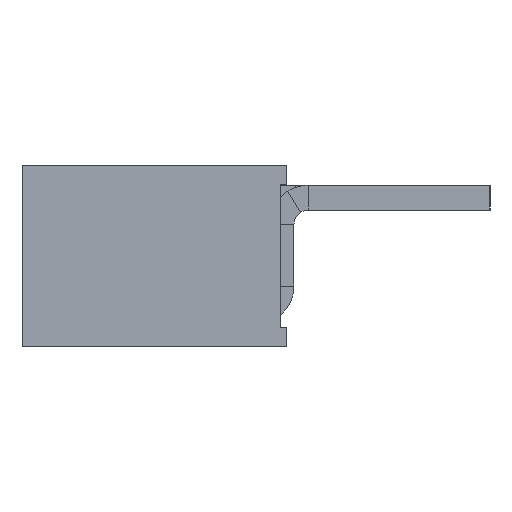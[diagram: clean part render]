
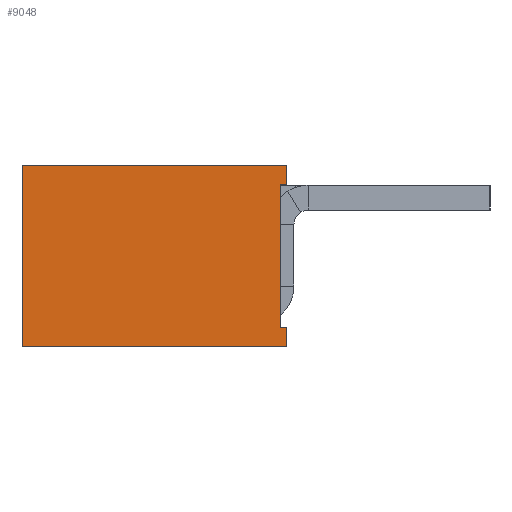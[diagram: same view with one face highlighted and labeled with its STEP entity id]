
A CAD part, left-side view. The second image highlights one B-rep face of the part: STEP entity #9048.
In plain terms, the highlighted planar face has unit normal (-1, 0, 0).
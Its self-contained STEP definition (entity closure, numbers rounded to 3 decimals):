
#5 = VERTEX_POINT ( 'NONE', #12772 ) ;
#84 = EDGE_CURVE ( 'NONE', #1833, #5634, #15939, .T. ) ;
#385 = CARTESIAN_POINT ( 'NONE',  ( -490.3, -15., -10.3 ) ) ;
#1269 = CARTESIAN_POINT ( 'NONE',  ( -490.3, -15., -10.3 ) ) ;
#1742 = AXIS2_PLACEMENT_3D ( 'NONE', #10714, #17536, #3973 ) ;
#1833 = VERTEX_POINT ( 'NONE', #16757 ) ;
#1929 = ORIENTED_EDGE ( 'NONE', *, *, #12741, .F. ) ;
#3317 = ORIENTED_EDGE ( 'NONE', *, *, #15484, .F. ) ;
#3642 = CARTESIAN_POINT ( 'NONE',  ( -490.3, 0., 0. ) ) ;
#3746 = DIRECTION ( 'NONE',  ( 0., 0., 1. ) ) ;
#3893 = VECTOR ( 'NONE', #3746, 1000. ) ;
#3973 = DIRECTION ( 'NONE',  ( 0., -1., 0. ) ) ;
#4343 = LINE ( 'NONE', #20511, #10376 ) ;
#5222 = VECTOR ( 'NONE', #18536, 1000. ) ;
#5634 = VERTEX_POINT ( 'NONE', #23808 ) ;
#6397 = VECTOR ( 'NONE', #13097, 1000. ) ;
#6816 = DIRECTION ( 'NONE',  ( 0., -1., 0. ) ) ;
#8426 = CARTESIAN_POINT ( 'NONE',  ( -490.3, -14.628, -1.1 ) ) ;
#9048 = ADVANCED_FACE ( 'NONE', ( #29388 ), #15281, .F. ) ;
#9887 = DIRECTION ( 'NONE',  ( 0., 0., -1. ) ) ;
#10034 = LINE ( 'NONE', #16170, #28131 ) ;
#10102 = EDGE_CURVE ( 'NONE', #28817, #24441, #16848, .T. ) ;
#10376 = VECTOR ( 'NONE', #6816, 1000. ) ;
#10400 = EDGE_LOOP ( 'NONE', ( #1929, #10904, #14228, #13883, #27454, #21057, #3317, #20157 ) ) ;
#10714 = CARTESIAN_POINT ( 'NONE',  ( -490.3, -11.658, -6.3 ) ) ;
#10904 = ORIENTED_EDGE ( 'NONE', *, *, #10102, .T. ) ;
#11443 = LINE ( 'NONE', #25747, #22775 ) ;
#11888 = CARTESIAN_POINT ( 'NONE',  ( -490.3, -1.1, -1.1 ) ) ;
#12741 = EDGE_CURVE ( 'NONE', #28817, #25532, #4343, .T. ) ;
#12772 = CARTESIAN_POINT ( 'NONE',  ( -490.3, -15., 0. ) ) ;
#12922 = EDGE_CURVE ( 'NONE', #5, #25468, #11443, .T. ) ;
#13097 = DIRECTION ( 'NONE',  ( 0., 0., -1. ) ) ;
#13293 = CARTESIAN_POINT ( 'NONE',  ( -490.3, -14.628, -9.2 ) ) ;
#13883 = ORIENTED_EDGE ( 'NONE', *, *, #12922, .F. ) ;
#14228 = ORIENTED_EDGE ( 'NONE', *, *, #26431, .F. ) ;
#15281 = PLANE ( 'NONE',  #1742 ) ;
#15484 = EDGE_CURVE ( 'NONE', #18772, #1833, #29389, .T. ) ;
#15939 = LINE ( 'NONE', #3642, #3893 ) ;
#16170 = CARTESIAN_POINT ( 'NONE',  ( -490.3, -15., 0. ) ) ;
#16430 = DIRECTION ( 'NONE',  ( 0., 1., 0. ) ) ;
#16757 = CARTESIAN_POINT ( 'NONE',  ( -490.3, 0., -10.3 ) ) ;
#16848 = LINE ( 'NONE', #22532, #28232 ) ;
#17536 = DIRECTION ( 'NONE',  ( 1., 0., 0. ) ) ;
#18440 = DIRECTION ( 'NONE',  ( 0., -1., 0. ) ) ;
#18450 = LINE ( 'NONE', #24409, #6397 ) ;
#18536 = DIRECTION ( 'NONE',  ( 0., 1., 0. ) ) ;
#18772 = VERTEX_POINT ( 'NONE', #1269 ) ;
#20145 = EDGE_CURVE ( 'NONE', #5634, #5, #10034, .T. ) ;
#20157 = ORIENTED_EDGE ( 'NONE', *, *, #22110, .F. ) ;
#20511 = CARTESIAN_POINT ( 'NONE',  ( -490.3, -1.1, -9.2 ) ) ;
#21057 = ORIENTED_EDGE ( 'NONE', *, *, #84, .F. ) ;
#21440 = CARTESIAN_POINT ( 'NONE',  ( -490.3, -15., -1.1 ) ) ;
#22110 = EDGE_CURVE ( 'NONE', #25532, #18772, #18450, .T. ) ;
#22532 = CARTESIAN_POINT ( 'NONE',  ( -490.3, -14.628, -9.2 ) ) ;
#22775 = VECTOR ( 'NONE', #9887, 1000. ) ;
#23205 = VECTOR ( 'NONE', #16430, 1000. ) ;
#23808 = CARTESIAN_POINT ( 'NONE',  ( -490.3, 0., 0. ) ) ;
#24409 = CARTESIAN_POINT ( 'NONE',  ( -490.3, -15., -9.2 ) ) ;
#24441 = VERTEX_POINT ( 'NONE', #8426 ) ;
#24824 = DIRECTION ( 'NONE',  ( 0., 0., 1. ) ) ;
#25468 = VERTEX_POINT ( 'NONE', #21440 ) ;
#25532 = VERTEX_POINT ( 'NONE', #26216 ) ;
#25747 = CARTESIAN_POINT ( 'NONE',  ( -490.3, -15., -1.1 ) ) ;
#26216 = CARTESIAN_POINT ( 'NONE',  ( -490.3, -15., -9.2 ) ) ;
#26431 = EDGE_CURVE ( 'NONE', #25468, #24441, #29252, .T. ) ;
#27454 = ORIENTED_EDGE ( 'NONE', *, *, #20145, .F. ) ;
#28131 = VECTOR ( 'NONE', #18440, 1000. ) ;
#28232 = VECTOR ( 'NONE', #24824, 1000. ) ;
#28817 = VERTEX_POINT ( 'NONE', #13293 ) ;
#29252 = LINE ( 'NONE', #11888, #23205 ) ;
#29388 = FACE_OUTER_BOUND ( 'NONE', #10400, .T. ) ;
#29389 = LINE ( 'NONE', #385, #5222 ) ;
